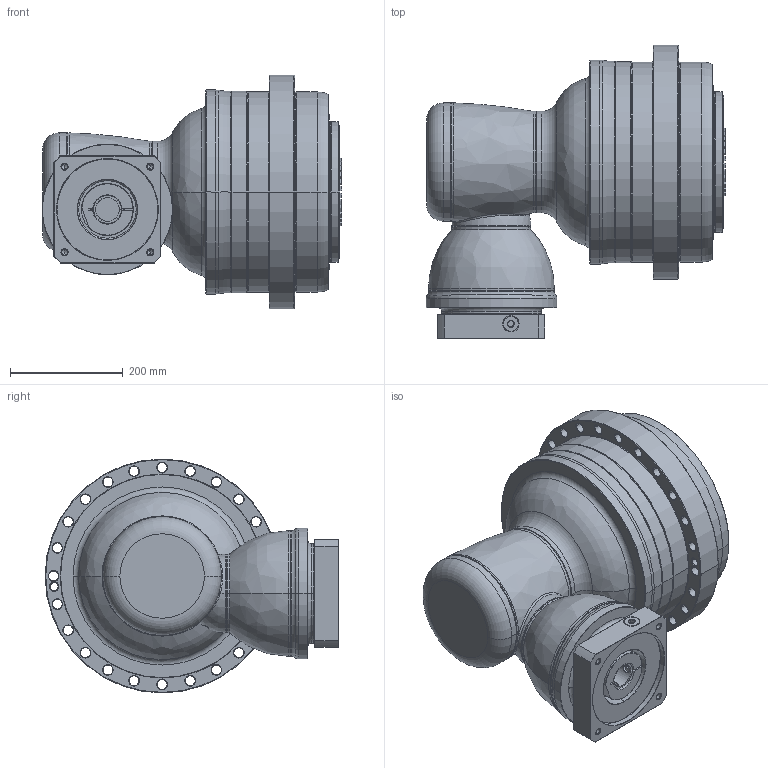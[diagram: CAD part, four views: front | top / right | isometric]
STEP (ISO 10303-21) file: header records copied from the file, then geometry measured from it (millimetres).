
FILE_DESCRIPTION((''),'2;1');
FILE_NAME('APCK355_3ST_42-P0409A00201_ASM','2018-05-14T',('d01226'),(''),'PRO/ENGINEER BY PARAMETRIC TECHNOLOGY CORPORATION, 2008410','PRO/ENGINEER BY PARAMETRIC TECHNOLOGY CORPORATION, 2008410','');
FILE_SCHEMA(('CONFIG_CONTROL_DESIGN'));
Length unit declared in the file: millimetre
Products named in the file (13): P1008600002; P1315600001; P1007601001; P1318610301; P0409A00201; P0503A00012; P0912603001; 21711422019; P1821110001; P0276101003; P03571G0103; P1222100001; APCK355_3ST_42-P0409A00201_ASM
Assembly tree (12 placements, depth 2):
  APCK355_3ST_42-P0409A00201_ASM
    P1008600002
    P1315600001
    P1007601001
    P1318610301
    P0409A00201
    P0503A00012
    P0912603001
    21711422019
    P1821110001
    P0276101003
    P03571G0103
    P1222100001
Bounding box: 532.1 x 521 x 415 mm (x, y, z)
Volume: 43454979.2 mm3; surface area: 2044491.6 mm2
Topology: 13 solids, 25 shells, 826 faces, 1979 edges, 1212 vertices
Faces by surface type: cone 260, cylinder 229, plane 156, torus 148, bspline 31, sphere 2
Entity records: 31939 total; most frequent: CARTESIAN_POINT 12272, DIRECTION 4393, ORIENTED_EDGE 3880, EDGE_CURVE 1965, AXIS2_PLACEMENT_3D 1947, VERTEX_POINT 1212, CIRCLE 1115, EDGE_LOOP 941
